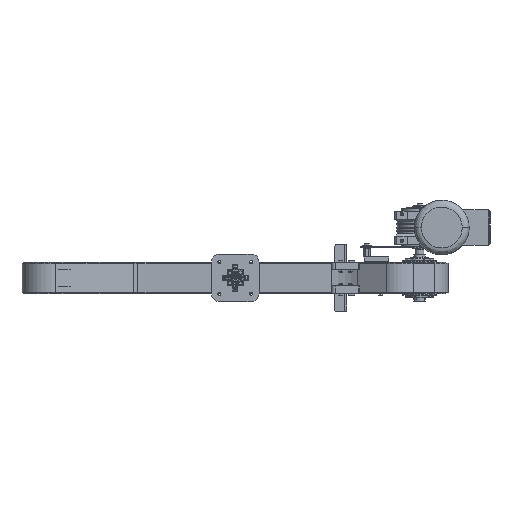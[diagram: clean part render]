
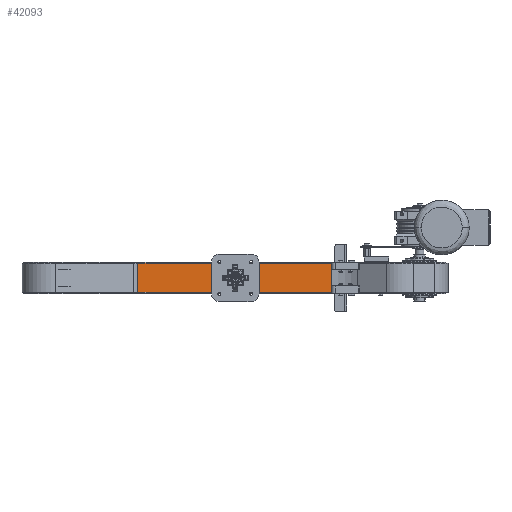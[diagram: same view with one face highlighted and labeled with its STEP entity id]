
A CAD part, front view. The second image highlights one B-rep face of the part: STEP entity #42093.
In plain terms, the highlighted planar face has unit normal (0, -1, 0).
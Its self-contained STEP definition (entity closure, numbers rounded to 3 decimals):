
#2140 = CARTESIAN_POINT ( 'NONE',  ( 41.25, -105.8, 550. ) ) ;
#2557 = VECTOR ( 'NONE', #64279, 1000. ) ;
#2622 = CARTESIAN_POINT ( 'NONE',  ( -41.25, -105.8, 0. ) ) ;
#3638 = DIRECTION ( 'NONE',  ( 0., -1., 0. ) ) ;
#5577 = VECTOR ( 'NONE', #10399, 1000. ) ;
#8338 = DIRECTION ( 'NONE',  ( 0., 0., 1. ) ) ;
#10399 = DIRECTION ( 'NONE',  ( 1., 0., 0. ) ) ;
#16111 = LINE ( 'NONE', #47623, #16919 ) ;
#16919 = VECTOR ( 'NONE', #8338, 1000. ) ;
#16926 = VERTEX_POINT ( 'NONE', #2622 ) ;
#23041 = ORIENTED_EDGE ( 'NONE', *, *, #73330, .F. ) ;
#26629 = LINE ( 'NONE', #58194, #55941 ) ;
#27562 = CARTESIAN_POINT ( 'NONE',  ( -41.25, -105.8, 550. ) ) ;
#32412 = VERTEX_POINT ( 'NONE', #27562 ) ;
#33232 = LINE ( 'NONE', #89082, #2557 ) ;
#35031 = ORIENTED_EDGE ( 'NONE', *, *, #72089, .F. ) ;
#37473 = EDGE_CURVE ( 'NONE', #16926, #86207, #26629, .T. ) ;
#42093 = ADVANCED_FACE ( 'NONE', ( #49645 ), #96705, .T. ) ;
#42402 = DIRECTION ( 'NONE',  ( 0., 0., -1. ) ) ;
#46961 = CARTESIAN_POINT ( 'NONE',  ( 41.25, -105.8, 0. ) ) ;
#47623 = CARTESIAN_POINT ( 'NONE',  ( -41.25, -105.8, 0. ) ) ;
#49645 = FACE_OUTER_BOUND ( 'NONE', #53818, .T. ) ;
#53818 = EDGE_LOOP ( 'NONE', ( #68816, #23041, #35031, #90441 ) ) ;
#55941 = VECTOR ( 'NONE', #64931, 1000. ) ;
#55975 = EDGE_CURVE ( 'NONE', #86207, #83157, #33232, .T. ) ;
#58194 = CARTESIAN_POINT ( 'NONE',  ( 41.25, -105.8, 0. ) ) ;
#64279 = DIRECTION ( 'NONE',  ( 0., 0., 1. ) ) ;
#64931 = DIRECTION ( 'NONE',  ( 1., 0., 0. ) ) ;
#66762 = LINE ( 'NONE', #2140, #5577 ) ;
#68816 = ORIENTED_EDGE ( 'NONE', *, *, #55975, .T. ) ;
#72089 = EDGE_CURVE ( 'NONE', #16926, #32412, #16111, .T. ) ;
#73330 = EDGE_CURVE ( 'NONE', #32412, #83157, #66762, .T. ) ;
#83157 = VERTEX_POINT ( 'NONE', #92092 ) ;
#83700 = AXIS2_PLACEMENT_3D ( 'NONE', #88944, #3638, #42402 ) ;
#86207 = VERTEX_POINT ( 'NONE', #46961 ) ;
#88944 = CARTESIAN_POINT ( 'NONE',  ( 41.25, -105.8, 0. ) ) ;
#89082 = CARTESIAN_POINT ( 'NONE',  ( 41.25, -105.8, 0. ) ) ;
#90441 = ORIENTED_EDGE ( 'NONE', *, *, #37473, .T. ) ;
#92092 = CARTESIAN_POINT ( 'NONE',  ( 41.25, -105.8, 550. ) ) ;
#96705 = PLANE ( 'NONE',  #83700 ) ;
